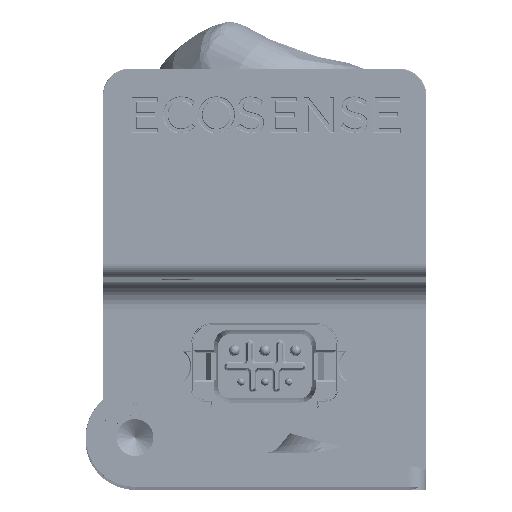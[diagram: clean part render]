
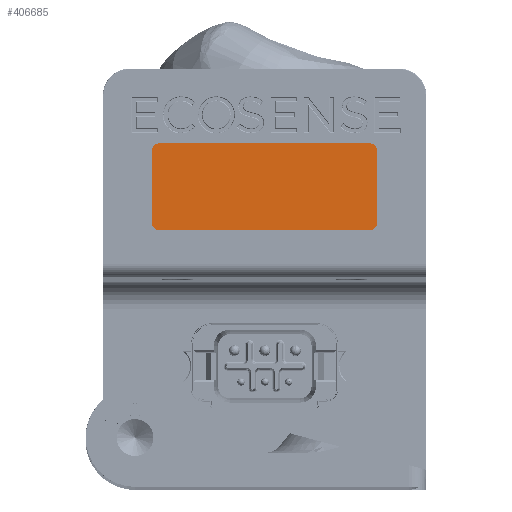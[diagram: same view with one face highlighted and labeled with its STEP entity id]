
A CAD part, top view. The second image highlights one B-rep face of the part: STEP entity #406685.
In plain terms, the highlighted planar face has unit normal (0, 0, 1) as drawn and (0, 1, 0) by its records, which use the part's own axes.
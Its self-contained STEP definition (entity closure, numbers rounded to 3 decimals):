
#19311 = EDGE_CURVE ( 'NONE', #128844, #297633, #157302, .T. ) ;
#20095 = CARTESIAN_POINT ( 'NONE',  ( -16.51, 0.3, 6.35 ) ) ;
#21431 = DIRECTION ( 'NONE',  ( 0., 1., 0. ) ) ;
#26319 = CARTESIAN_POINT ( 'NONE',  ( -16.51, 0.3, -5.35 ) ) ;
#29594 = CARTESIAN_POINT ( 'NONE',  ( 15.51, 0.3, 5.35 ) ) ;
#32883 = LINE ( 'NONE', #41023, #53248 ) ;
#41023 = CARTESIAN_POINT ( 'NONE',  ( 16.51, 0.3, 6.35 ) ) ;
#53248 = VECTOR ( 'NONE', #732491, 1000. ) ;
#62417 = CARTESIAN_POINT ( 'NONE',  ( 15.51, 0.3, -6.35 ) ) ;
#65893 = AXIS2_PLACEMENT_3D ( 'NONE', #328719, #721831, #457121 ) ;
#74348 = ORIENTED_EDGE ( 'NONE', *, *, #736549, .T. ) ;
#78062 = ORIENTED_EDGE ( 'NONE', *, *, #424943, .T. ) ;
#95171 = ORIENTED_EDGE ( 'NONE', *, *, #371240, .T. ) ;
#128844 = VERTEX_POINT ( 'NONE', #26319 ) ;
#129908 = CARTESIAN_POINT ( 'NONE',  ( -16.51, 0.3, 5.35 ) ) ;
#142455 = VERTEX_POINT ( 'NONE', #434513 ) ;
#143897 = LINE ( 'NONE', #781577, #683032 ) ;
#143918 = ORIENTED_EDGE ( 'NONE', *, *, #19311, .T. ) ;
#145529 = DIRECTION ( 'NONE',  ( 0., 0., -1. ) ) ;
#145991 = CARTESIAN_POINT ( 'NONE',  ( 15.51, 0.3, -5.35 ) ) ;
#146291 = VERTEX_POINT ( 'NONE', #62417 ) ;
#157302 = LINE ( 'NONE', #409990, #191890 ) ;
#169565 = DIRECTION ( 'NONE',  ( 0., 0., 1. ) ) ;
#172103 = ORIENTED_EDGE ( 'NONE', *, *, #246808, .T. ) ;
#180242 = CARTESIAN_POINT ( 'NONE',  ( -15.51, 0.3, 6.35 ) ) ;
#184614 = CIRCLE ( 'NONE', #65893, 1. ) ;
#191890 = VECTOR ( 'NONE', #169565, 1000. ) ;
#229394 = VERTEX_POINT ( 'NONE', #180242 ) ;
#246808 = EDGE_CURVE ( 'NONE', #662036, #142455, #32883, .T. ) ;
#270512 = DIRECTION ( 'NONE',  ( 0., -1., 0. ) ) ;
#270763 = DIRECTION ( 'NONE',  ( 0., 0., -1. ) ) ;
#272445 = DIRECTION ( 'NONE',  ( 1., 0., 0. ) ) ;
#274607 = CARTESIAN_POINT ( 'NONE',  ( 0., 0.3, 0. ) ) ;
#280585 = LINE ( 'NONE', #20095, #404710 ) ;
#297633 = VERTEX_POINT ( 'NONE', #129908 ) ;
#307256 = AXIS2_PLACEMENT_3D ( 'NONE', #145991, #402687, #535177 ) ;
#325344 = CARTESIAN_POINT ( 'NONE',  ( 15.51, 0.3, 6.35 ) ) ;
#328719 = CARTESIAN_POINT ( 'NONE',  ( -15.51, 0.3, 5.35 ) ) ;
#344936 = PLANE ( 'NONE',  #776249 ) ;
#365053 = AXIS2_PLACEMENT_3D ( 'NONE', #29594, #21431, #145529 ) ;
#371240 = EDGE_CURVE ( 'NONE', #229394, #526377, #280585, .T. ) ;
#382809 = DIRECTION ( 'NONE',  ( 0., 1., 0. ) ) ;
#402687 = DIRECTION ( 'NONE',  ( 0., 1., 0. ) ) ;
#404710 = VECTOR ( 'NONE', #272445, 1000. ) ;
#406685 = ADVANCED_FACE ( 'NONE', ( #589349 ), #344936, .F. ) ;
#409990 = CARTESIAN_POINT ( 'NONE',  ( -16.51, 0.3, 6.35 ) ) ;
#424943 = EDGE_CURVE ( 'NONE', #526377, #662036, #642900, .T. ) ;
#434513 = CARTESIAN_POINT ( 'NONE',  ( 16.51, 0.3, -5.35 ) ) ;
#457121 = DIRECTION ( 'NONE',  ( 0., 0., -1. ) ) ;
#495929 = ORIENTED_EDGE ( 'NONE', *, *, #783604, .T. ) ;
#526377 = VERTEX_POINT ( 'NONE', #325344 ) ;
#531545 = CARTESIAN_POINT ( 'NONE',  ( -15.51, 0.3, -6.35 ) ) ;
#534167 = ORIENTED_EDGE ( 'NONE', *, *, #596833, .T. ) ;
#535177 = DIRECTION ( 'NONE',  ( 0., 0., -1. ) ) ;
#539513 = DIRECTION ( 'NONE',  ( 0., 0., -1. ) ) ;
#540240 = VERTEX_POINT ( 'NONE', #531545 ) ;
#577409 = CARTESIAN_POINT ( 'NONE',  ( -15.51, 0.3, -5.35 ) ) ;
#589349 = FACE_OUTER_BOUND ( 'NONE', #691503, .T. ) ;
#590874 = CIRCLE ( 'NONE', #802607, 1. ) ;
#596833 = EDGE_CURVE ( 'NONE', #142455, #146291, #611157, .T. ) ;
#611157 = CIRCLE ( 'NONE', #307256, 1. ) ;
#642900 = CIRCLE ( 'NONE', #365053, 1. ) ;
#649110 = DIRECTION ( 'NONE',  ( -1., 0., 0. ) ) ;
#662036 = VERTEX_POINT ( 'NONE', #708749 ) ;
#683032 = VECTOR ( 'NONE', #649110, 1000. ) ;
#691503 = EDGE_LOOP ( 'NONE', ( #704618, #495929, #143918, #74348, #95171, #78062, #172103, #534167 ) ) ;
#704618 = ORIENTED_EDGE ( 'NONE', *, *, #783529, .T. ) ;
#708749 = CARTESIAN_POINT ( 'NONE',  ( 16.51, 0.3, 5.35 ) ) ;
#721831 = DIRECTION ( 'NONE',  ( 0., 1., 0. ) ) ;
#732491 = DIRECTION ( 'NONE',  ( 0., 0., -1. ) ) ;
#736549 = EDGE_CURVE ( 'NONE', #297633, #229394, #184614, .T. ) ;
#776249 = AXIS2_PLACEMENT_3D ( 'NONE', #274607, #270512, #539513 ) ;
#781577 = CARTESIAN_POINT ( 'NONE',  ( -16.51, 0.3, -6.35 ) ) ;
#783529 = EDGE_CURVE ( 'NONE', #146291, #540240, #143897, .T. ) ;
#783604 = EDGE_CURVE ( 'NONE', #540240, #128844, #590874, .T. ) ;
#802607 = AXIS2_PLACEMENT_3D ( 'NONE', #577409, #382809, #270763 ) ;
